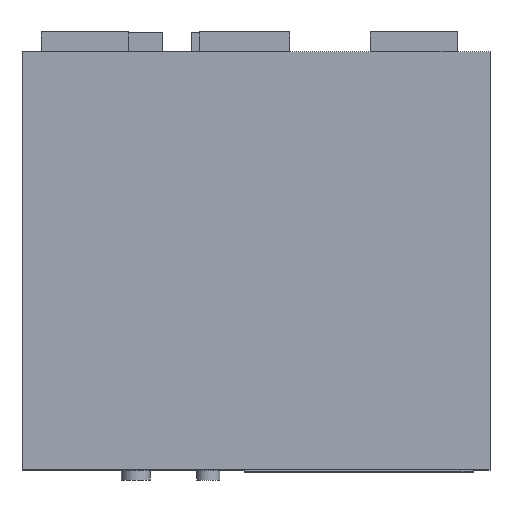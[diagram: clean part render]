
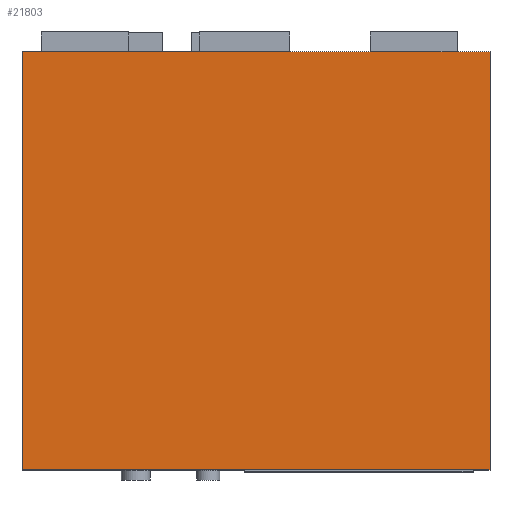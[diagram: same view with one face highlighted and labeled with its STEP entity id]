
A CAD part, top view. The second image highlights one B-rep face of the part: STEP entity #21803.
In plain terms, the highlighted planar face has unit normal (0, 0, 1).
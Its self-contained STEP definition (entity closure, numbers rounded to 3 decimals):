
#20799=CARTESIAN_POINT('',(235.0,210.0,200.0));
#20800=VERTEX_POINT('',#20799);
#20801=CARTESIAN_POINT('',(235.,-210.,200.0));
#20802=VERTEX_POINT('',#20801);
#20803=CARTESIAN_POINT('',(235.0,210.0,200.0));
#20804=DIRECTION('',(0.0,-1.0,0.0));
#20805=VECTOR('',#20804,420.);
#20806=LINE('',#20803,#20805);
#20807=EDGE_CURVE('',#20800,#20802,#20806,.T.);
#20851=CARTESIAN_POINT('',(-235.,-210.0,200.0));
#20852=VERTEX_POINT('',#20851);
#20853=CARTESIAN_POINT('',(235.,-210.,200.0));
#20854=DIRECTION('',(-1.0,0.0,0.0));
#20855=VECTOR('',#20854,470.0);
#20856=LINE('',#20853,#20855);
#20857=EDGE_CURVE('',#20802,#20852,#20856,.T.);
#21540=CARTESIAN_POINT('',(-235.0,210.0,200.0));
#21541=VERTEX_POINT('',#21540);
#21542=CARTESIAN_POINT('',(-235.,-210.0,200.0));
#21543=DIRECTION('',(0.0,1.0,0.0));
#21544=VECTOR('',#21543,420.0);
#21545=LINE('',#21542,#21544);
#21546=EDGE_CURVE('',#20852,#21541,#21545,.T.);
#21745=CARTESIAN_POINT('',(-235.0,210.0,200.0));
#21746=DIRECTION('',(1.0,0.0,0.0));
#21747=VECTOR('',#21746,470.0);
#21748=LINE('',#21745,#21747);
#21749=EDGE_CURVE('',#21541,#20800,#21748,.T.);
#21792=CARTESIAN_POINT('',(0.0,0.,200.0));
#21793=DIRECTION('',(0.0,0.0,1.0));
#21794=DIRECTION('',(1.0,0.0,0.0));
#21795=AXIS2_PLACEMENT_3D('',#21792,#21793,#21794);
#21796=PLANE('',#21795);
#21797=ORIENTED_EDGE('',*,*,#20807,.F.);
#21798=ORIENTED_EDGE('',*,*,#21749,.F.);
#21799=ORIENTED_EDGE('',*,*,#21546,.F.);
#21800=ORIENTED_EDGE('',*,*,#20857,.F.);
#21801=EDGE_LOOP('',(#21797,#21798,#21799,#21800));
#21802=FACE_OUTER_BOUND('',#21801,.T.);
#21803=ADVANCED_FACE('',(#21802),#21796,.T.);
